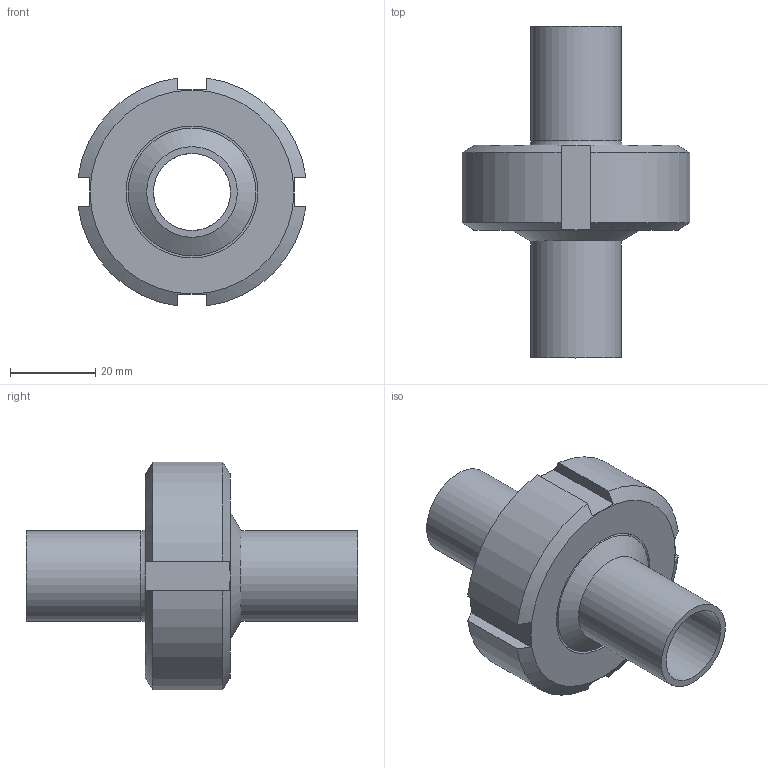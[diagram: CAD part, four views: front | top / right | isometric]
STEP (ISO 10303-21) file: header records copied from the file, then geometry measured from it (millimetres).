
FILE_DESCRIPTION(/* description */ ('Aseptik_Rohrverbindung_DIN 11864-1-A_21,3x1,6_L78'),/* implementation_level */ '2;1');
FILE_NAME(/* name */ 'L:\Normteile\N0024 - Rohrverbindungen\N0024_002 - DIN11864\N0024_002_001 - geschraubt\N0024_002_001\Step Marketing\DIN11864-1-A_21,3x1,6_L78.stp',/* time_stamp */ '2021-08-31T10:23:30+02:00',/* author */ ('Csasse'),/* organization */ ('Dockweiler AG'),/* preprocessor_version */ 'ST-DEVELOPER v18',/* originating_system */ 'Autodesk Inventor 2020',/* authorisation */ '');
FILE_SCHEMA (('AUTOMOTIVE_DESIGN { 1 0 10303 214 3 1 1 }'));
Length unit declared in the file: millimetre
Products named in the file (5): N0024_002_001_41; N0003_007_001_13; N0003_007_002_13; N0005_005_002_001_14; N0009_009_13
Assembly tree (4 placements, depth 2):
  N0024_002_001_41
    N0003_007_001_13
    N0003_007_002_13
    N0005_005_002_001_14
    N0009_009_13
Bounding box: 53.54 x 78 x 53.54 mm (x, y, z)
Volume: 46527.8 mm3; surface area: 24997.2 mm2
Topology: 4 solids, 4 shells, 60 faces, 176 edges, 128 vertices
Faces by surface type: plane 24, cylinder 14, torus 12, cone 10
Full cylindrical faces by diameter (mm): 18.1 x2, 21.3 x2, 30 x1, 31 x1, 35.9 x1, 36 x1, 39.767 x1, 44.423 x1
Entity records: 2344 total; most frequent: CARTESIAN_POINT 425, DIRECTION 402, ORIENTED_EDGE 352, AXIS2_PLACEMENT_3D 183, EDGE_CURVE 176, VERTEX_POINT 128, CIRCLE 114, EDGE_LOOP 72
